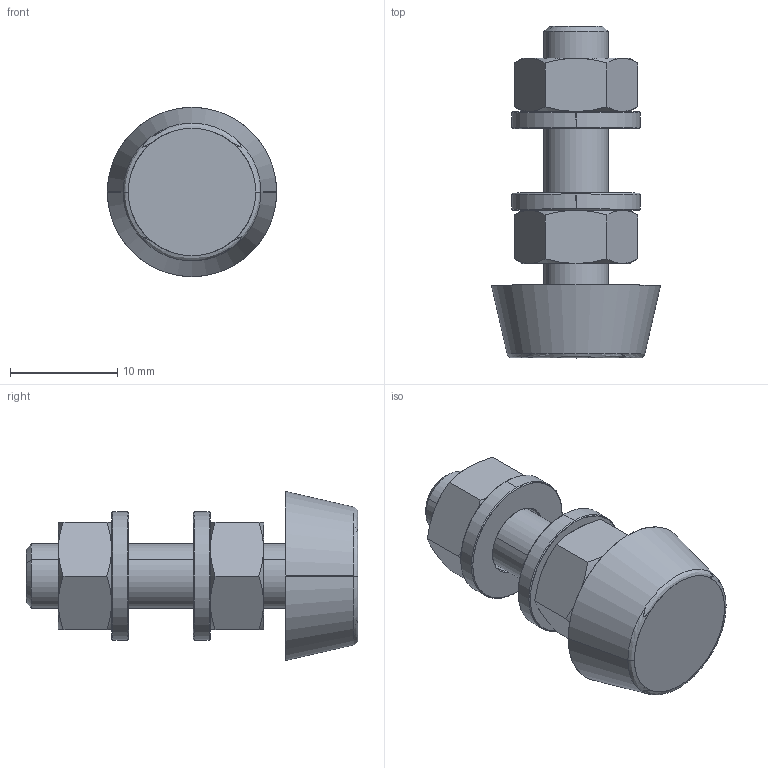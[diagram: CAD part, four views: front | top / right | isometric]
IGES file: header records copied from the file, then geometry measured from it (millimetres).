
Start section: SolidWorks IGES file using analytic representation for surfaces
Global section: file name: C:\Projetos\Ponteiras\BAP\BAP-M6.IGS; native system: SolidWorks 2015; preprocessor: SolidWorks 2015; author: Ricardo; date: 160725.145440; units: millimetre
Bounding box: 15.8 x 31 x 15.8 mm (x, y, z)
Surface area: 2740.9 mm2 (no closed solid volume)
Topology: 0 solids, 0 shells, 106 faces, 1292 edges, 1292 vertices
Faces by surface type: revolution 68, bspline 38
